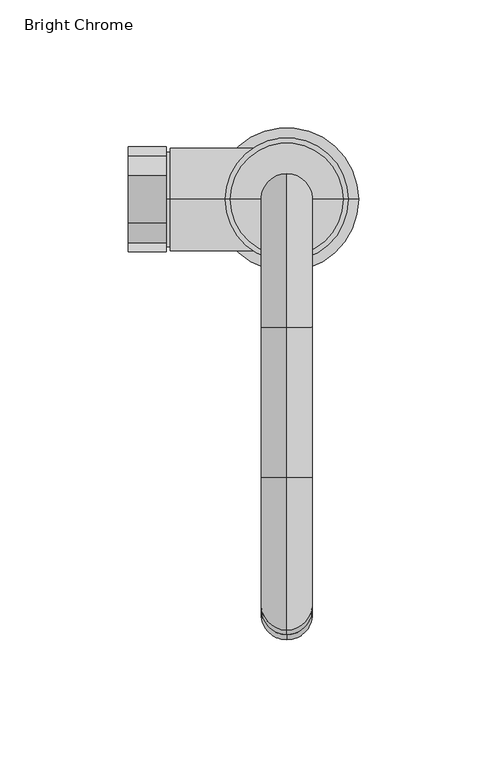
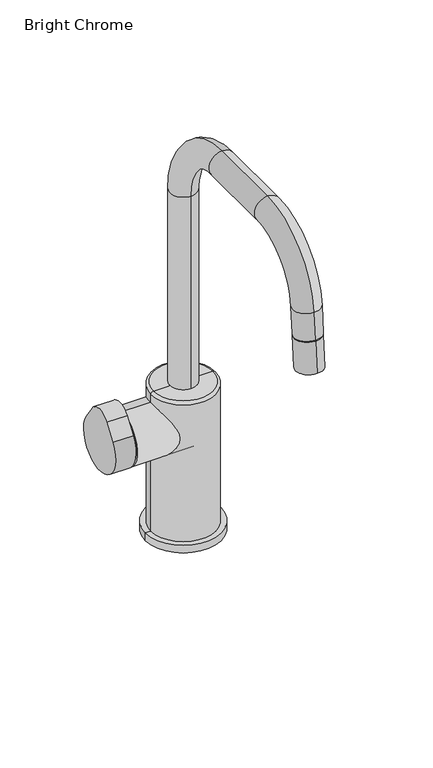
"""IFC4 building model written with IfcOpenShell, lengths in millimetres: flow terminal geometry, z_PlumFixt_Zip_Cube : Bright Chrome."""

from ifc_helpers import new_model, si_unit, point, frame, frame_2d, origin, place, context, project, spatial, polyline, circle_curve, ellipse_curve, trimmed, segment, composite_curve, outline, extrude, source, transform, mapped, element, save
from ifc_brep_helpers import plane_surface, cylinder_surface, revolved_surface, advanced_brep


def bright_chrome_cb32e6d9(model_context):
    return source(origin(), model_context, "Body", "SolidModel", [
        extrude(outline(composite_curve([segment(trimmed(circle_curve(frame_2d((10.65, 87.5)), 6.35), [point((17.0, 87.5))], [point((4.3, 87.5))], False, "CARTESIAN"), True, "CONTINUOUS"), segment(trimmed(circle_curve(frame_2d((10.65, 87.5)), 6.35), [point((4.3, 87.5))], [point((17.0, 87.5))], False, "CARTESIAN"), True, "CONTINUOUS")], self_intersect=False)), frame((0.0, 0.0, -1.0), z_axis=(0.0, 0.0, 1.0), x_axis=(1.0, 0.0, 0.0)), (0.0, 0.0, 1.0), 1.0),
        extrude(outline(composite_curve([segment(trimmed(circle_curve(frame_2d((25.35, 87.5)), 6.35), [point((31.7, 87.5))], [point((19.0, 87.5))], False, "CARTESIAN"), True, "CONTINUOUS"), segment(trimmed(circle_curve(frame_2d((25.35, 87.5)), 6.35), [point((19.0, 87.5))], [point((31.7, 87.5))], False, "CARTESIAN"), True, "CONTINUOUS")], self_intersect=False)), frame((0.0, 0.0, -1.0), z_axis=(0.0, 0.0, 1.0), x_axis=(1.0, 0.0, 0.0)), (0.0, 0.0, 1.0), 1.0),
        advanced_brep(
        [(18.0, 87.5, 0.0), (46.0, 87.5, 0.0), (-10.0, 87.5, 0.0), (-4.0, 87.5, 115.0), (40.0, 87.5, 115.0), (18.0, 87.5, 115.0), (-6.0, 87.5, 6.0), (42.0, 87.5, 6.0), (42.0, 87.5, 113.0), (-6.0, 87.5, 113.0), (-10.0, 87.5, 6.0), (46.0, 87.5, 6.0)],
        [
            (0, 1),
            (1, 2, circle_curve(frame((18.0, 87.5, 0.0), z_axis=(0.0, 0.0, -1.0), x_axis=(1.0, 0.0, 0.0)), 28.0)),
            (2, 0),
            (2, 1, circle_curve(frame((18.0, 87.5, 0.0), z_axis=(0.0, 0.0, -1.0), x_axis=(1.0, 0.0, 0.0)), 28.0)),
            (3, 4, circle_curve(frame((18.0, 87.5, 115.0), z_axis=(0.0, 0.0, 1.0), x_axis=(1.0, 0.0, 0.0)), 22.0)),
            (4, 5),
            (5, 3),
            (4, 3, circle_curve(frame((18.0, 87.5, 115.0), z_axis=(0.0, 0.0, 1.0), x_axis=(1.0, 0.0, 0.0)), 22.0)),
            (6, 7, circle_curve(frame((18.0, 87.5, 6.0), z_axis=(0.0, 0.0, 1.0), x_axis=(1.0, 0.0, 0.0)), 24.0)),
            (7, 8),
            (8, 9, circle_curve(frame((18.0, 87.5, 113.0), z_axis=(0.0, 0.0, -1.0), x_axis=(1.0, 0.0, 0.0)), 24.0)),
            (9, 6),
            (7, 6, circle_curve(frame((18.0, 87.5, 6.0), z_axis=(0.0, 0.0, 1.0), x_axis=(1.0, 0.0, 0.0)), 24.0)),
            (9, 8, circle_curve(frame((18.0, 87.5, 113.0), z_axis=(0.0, 0.0, -1.0), x_axis=(1.0, 0.0, 0.0)), 24.0)),
            (10, 11, circle_curve(frame((18.0, 87.5, 6.0), z_axis=(0.0, 0.0, 1.0), x_axis=(1.0, 0.0, 0.0)), 28.0)),
            (11, 7),
            (6, 10),
            (11, 10, circle_curve(frame((18.0, 87.5, 6.0), z_axis=(0.0, 0.0, 1.0), x_axis=(1.0, 0.0, 0.0)), 28.0)),
            (1, 11),
            (10, 2),
            (8, 4, circle_curve(frame((40.0, 87.5, 113.0), z_axis=(0.0, -1.0, 0.0), x_axis=(-1.0, 0.0, 0.0)), 2.0)),
            (3, 9, circle_curve(frame((-4.0, 87.5, 113.0), z_axis=(0.0, -1.0, 0.0), x_axis=(1.0, 0.0, 0.0)), 2.0)),
        ],
        [
            plane_surface(frame((18.0, 87.5, 0.0), z_axis=(0.0, 0.0, -1.0), x_axis=(1.0, 0.0, 0.0))),
            plane_surface(frame((18.0, 87.5, 115.0), z_axis=(0.0, 0.0, 1.0), x_axis=(1.0, 0.0, 0.0))),
            cylinder_surface(frame((18.0, 87.5, 115.0), z_axis=(0.0, 0.0, -1.0), x_axis=(1.0, 0.0, 0.0)), 24.0),
            plane_surface(frame((18.0, 87.5, 6.0), z_axis=(0.0, 0.0, 1.0), x_axis=(1.0, 0.0, 0.0))),
            cylinder_surface(frame((18.0, 87.5, 115.0), z_axis=(0.0, 0.0, -1.0), x_axis=(1.0, 0.0, 0.0)), 28.0),
            revolved_surface(trimmed(ellipse_curve(frame((40.0, 87.5, 113.0), z_axis=(0.0, 1.0, 0.0), x_axis=(-1.0, 0.0, 0.0)), 2.0, 2.0), [point((40.0, 87.5, 115.0))], [point((42.0, 87.5, 113.0))], True, "CARTESIAN"), (18.0, 87.5, 115.0), (0.0, 0.0, -1.0)),
        ],
        [
            (0, [[1, 2, 3]]),
            (0, [[-3, 4, -1]]),
            (1, [[5, 6, 7]]),
            (1, [[8, -7, -6]]),
            (2, [[9, 10, 11, 12]]),
            (2, [[13, -12, 14, -10]]),
            (3, [[15, 16, -9, 17]]),
            (3, [[18, -17, -13, -16]]),
            (4, [[-2, 19, -15, 20]]),
            (4, [[-4, -20, -18, -19]]),
            (5, [[-11, 21, -5, 22]]),
            (5, [[-14, -22, -8, -21]]),
        ],
    ),
        advanced_brep(
        [(18.0, -79.6702782, 223.2038583), (18.0, -69.7110477, 222.3780963), (18.0, -74.6906629, 222.7909773), (18.0, -79.5203848, 225.0116708), (18.0, -69.5611543, 224.1859088), (18.0, -84.5, 225.4245518), (18.0, -64.581539, 223.7730278), (18.0, -82.5082168, 249.4467619), (18.0, -62.5897558, 247.7952379), (18.0, -81.5116366, 249.3641312), (18.0, -63.5863361, 247.8778686), (18.0, -81.3606074, 251.1856412), (18.0, -63.435307, 249.6993786), (18.0, -72.3979572, 250.4425099)],
        [
            (0, 1, circle_curve(frame((18.0, -74.6906629, 222.7909773), z_axis=(0.0, -0.08263068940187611, -0.9965802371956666), x_axis=(0.0, 0.9965802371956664, -0.0826306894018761)), 4.9967028)),
            (1, 2),
            (2, 0),
            (1, 0, circle_curve(frame((18.0, -74.6906629, 222.7909773), z_axis=(0.0, -0.08263068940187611, -0.9965802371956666), x_axis=(0.0, 0.9965802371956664, -0.0826306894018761)), 4.9967028)),
            (3, 4, circle_curve(frame((18.0, -74.5407695, 224.5987898), z_axis=(0.0, -0.08263068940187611, -0.9965802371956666), x_axis=(0.0, 0.9965802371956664, -0.0826306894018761)), 4.9967028)),
            (4, 1),
            (0, 3),
            (4, 3, circle_curve(frame((18.0, -74.5407695, 224.5987898), z_axis=(0.0, -0.08263068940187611, -0.9965802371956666), x_axis=(0.0, 0.9965802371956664, -0.0826306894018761)), 4.9967028)),
            (5, 6, circle_curve(frame((18.0, -74.5407695, 224.5987898), z_axis=(0.0, -0.08263068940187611, -0.9965802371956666), x_axis=(0.0, 0.9965802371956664, -0.0826306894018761)), 9.9934056)),
            (6, 4),
            (3, 5),
            (6, 5, circle_curve(frame((18.0, -74.5407695, 224.5987898), z_axis=(0.0, -0.08263068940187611, -0.9965802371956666), x_axis=(0.0, 0.9965802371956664, -0.0826306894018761)), 9.9934056)),
            (7, 8, circle_curve(frame((18.0, -72.5489863, 248.6209999), z_axis=(0.0, -0.08263068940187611, -0.9965802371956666), x_axis=(0.0, 0.9965802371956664, -0.0826306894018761)), 9.9934056)),
            (8, 6),
            (5, 7),
            (8, 7, circle_curve(frame((18.0, -72.5489863, 248.6209999), z_axis=(0.0, -0.08263068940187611, -0.9965802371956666), x_axis=(0.0, 0.9965802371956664, -0.0826306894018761)), 9.9934056)),
            (9, 10, circle_curve(frame((18.0, -72.5489863, 248.6209999), z_axis=(0.0, -0.08263068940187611, -0.9965802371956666), x_axis=(0.0, 0.9965802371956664, -0.0826306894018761)), 8.9934056)),
            (10, 8),
            (7, 9),
            (10, 9, circle_curve(frame((18.0, -72.5489863, 248.6209999), z_axis=(0.0, -0.08263068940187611, -0.9965802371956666), x_axis=(0.0, 0.9965802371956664, -0.0826306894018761)), 8.9934056)),
            (11, 12, circle_curve(frame((18.0, -72.3979572, 250.4425099), z_axis=(0.0, -0.08263068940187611, -0.9965802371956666), x_axis=(0.0, 0.9965802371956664, -0.0826306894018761)), 8.9934056)),
            (12, 10),
            (9, 11),
            (12, 11, circle_curve(frame((18.0, -72.3979572, 250.4425099), z_axis=(0.0, -0.08263068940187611, -0.9965802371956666), x_axis=(0.0, 0.9965802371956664, -0.0826306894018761)), 8.9934056)),
            (13, 12),
            (11, 13),
        ],
        [
            plane_surface(frame((18.0, -74.6906629, 222.7909773), z_axis=(0.0, -0.08263068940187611, -0.9965802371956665), x_axis=(0.0, 0.9965802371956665, -0.08263068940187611))),
            cylinder_surface(frame((18.0, -72.3979572, 250.4425099), z_axis=(0.0, 0.0826306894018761, 0.9965802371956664), x_axis=(0.0, 0.9965802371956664, -0.0826306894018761)), 4.9967028),
            plane_surface(frame((18.0, -74.5407695, 224.5987898), z_axis=(0.0, -0.08263068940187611, -0.9965802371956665), x_axis=(0.0, 0.9965802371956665, -0.08263068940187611))),
            cylinder_surface(frame((18.0, -72.3979572, 250.4425099), z_axis=(0.0, 0.0826306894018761, 0.9965802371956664), x_axis=(0.0, 0.9965802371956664, -0.0826306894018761)), 9.9934056),
            plane_surface(frame((18.0, -72.5489863, 248.6209999), z_axis=(0.0, 0.08263068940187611, 0.9965802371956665), x_axis=(0.0, 0.9965802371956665, -0.08263068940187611))),
            cylinder_surface(frame((18.0, -72.3979572, 250.4425099), z_axis=(0.0, 0.0826306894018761, 0.9965802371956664), x_axis=(0.0, 0.9965802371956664, -0.0826306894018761)), 8.9934056),
            plane_surface(frame((18.0, -72.3979572, 250.4425099), z_axis=(0.0, 0.08263068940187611, 0.9965802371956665), x_axis=(0.0, 0.9965802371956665, -0.08263068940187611))),
        ],
        [
            (0, [[1, 2, 3]]),
            (0, [[4, -3, -2]]),
            (1, [[5, 6, -1, 7]]),
            (1, [[8, -7, -4, -6]]),
            (2, [[9, 10, -5, 11]]),
            (2, [[12, -11, -8, -10]]),
            (3, [[13, 14, -9, 15]]),
            (3, [[16, -15, -12, -14]]),
            (4, [[17, 18, -13, 19]]),
            (4, [[20, -19, -16, -18]]),
            (5, [[21, 22, -17, 23]]),
            (5, [[24, -23, -20, -22]]),
            (6, [[25, -21, 26]]),
            (6, [[-26, -24, -25]]),
        ],
    ),
        advanced_brep(
        [(18.0, 97.5, 115.0), (18.0, 77.5, 115.0), (18.0, 97.5, 266.0), (18.0, 77.5, 266.0), (18.0, -82.442046, 250.3246314), (18.0, -62.5104412, 248.6720176), (18.0, -60.7996544, 269.3052276), (18.0, -80.7312591, 270.9578414), (18.0, 37.5, 306.0), (18.0, 37.5, 326.0), (18.0, -20.9364449, 326.0), (18.0, -20.9364449, 306.0)],
        [
            (0, 1, circle_curve(frame((18.0, 87.5, 115.0), z_axis=(0.0, 0.0, -1.0), x_axis=(0.0, -1.0, 0.0)), 10.0)),
            (1, 0, circle_curve(frame((18.0, 87.5, 115.0), z_axis=(0.0, 0.0, -1.0), x_axis=(0.0, -1.0, 0.0)), 10.0)),
            (0, 2),
            (2, 3, circle_curve(frame((18.0, 87.5, 266.0), z_axis=(0.0, 0.0, -1.0), x_axis=(0.0, -1.0, 0.0)), 10.0)),
            (3, 1),
            (3, 2, circle_curve(frame((18.0, 87.5, 266.0), z_axis=(0.0, 0.0, -1.0), x_axis=(0.0, -1.0, 0.0)), 10.0)),
            (4, 5, circle_curve(frame((18.0, -72.4762436, 249.4983245), z_axis=(0.0, -0.08263068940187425, -0.9965802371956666), x_axis=(0.0, 0.9965802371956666, -0.08263068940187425)), 10.0)),
            (5, 4, circle_curve(frame((18.0, -72.4762436, 249.4983245), z_axis=(0.0, -0.08263068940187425, -0.9965802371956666), x_axis=(0.0, 0.9965802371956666, -0.08263068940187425)), 10.0)),
            (6, 7, circle_curve(frame((18.0, -70.7654568, 270.1315345), z_axis=(0.0, -0.08263068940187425, -0.9965802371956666), x_axis=(0.0, 0.9965802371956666, -0.08263068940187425)), 10.0)),
            (7, 4),
            (5, 6),
            (7, 6, circle_curve(frame((18.0, -70.7654568, 270.1315345), z_axis=(0.0, -0.08263068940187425, -0.9965802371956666), x_axis=(0.0, 0.9965802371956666, -0.08263068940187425)), 10.0)),
            (8, 3, circle_curve(frame((18.0, 37.5, 266.0), z_axis=(-1.0, 0.0, 0.0), x_axis=(0.0, 1.0, 0.0)), 40.0)),
            (2, 9, circle_curve(frame((18.0, 37.5, 266.0), z_axis=(1.0, 0.0, 0.0), x_axis=(0.0, 1.0, 0.0)), 60.0)),
            (9, 8, circle_curve(frame((18.0, 37.5, 316.0), z_axis=(0.0, 1.0, 0.0), x_axis=(0.0, 0.0, -1.0)), 10.0)),
            (8, 9, circle_curve(frame((18.0, 37.5, 316.0), z_axis=(0.0, 1.0, 0.0), x_axis=(0.0, 0.0, -1.0)), 10.0)),
            (9, 10),
            (10, 11, circle_curve(frame((18.0, -20.9364449, 316.0), z_axis=(0.0, 1.0, 0.0), x_axis=(0.0, 0.0, -1.0)), 10.0)),
            (11, 8),
            (11, 10, circle_curve(frame((18.0, -20.9364449, 316.0), z_axis=(0.0, 1.0, 0.0), x_axis=(0.0, 0.0, -1.0)), 10.0)),
            (6, 11, circle_curve(frame((18.0, -20.9364449, 266.0), z_axis=(-1.0, 0.0, 0.0), x_axis=(0.0, 0.0, 1.0)), 40.0)),
            (10, 7, circle_curve(frame((18.0, -20.9364449, 266.0), z_axis=(1.0, 0.0, 0.0), x_axis=(0.0, 0.0, 1.0)), 60.0)),
        ],
        [
            plane_surface(frame((18.0, 87.5, 115.0), z_axis=(0.0, 0.0, -1.0), x_axis=(1.0, 0.0, 0.0))),
            cylinder_surface(frame((18.0, 87.5, 115.0), z_axis=(0.0, 0.0, -1.0), x_axis=(0.0, -1.0, 0.0)), 10.0),
            plane_surface(frame((18.0, -72.4762436, 249.4983245), z_axis=(0.0, -0.08263068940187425, -0.9965802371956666), x_axis=(1.0, 0.0, 0.0))),
            cylinder_surface(frame((18.0, -70.7654568, 270.1315345), z_axis=(0.0, 0.08263068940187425, 0.9965802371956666), x_axis=(0.0, 0.9965802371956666, -0.08263068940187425)), 10.0),
            revolved_surface(trimmed(ellipse_curve(frame((18.0, 87.5, 266.0), z_axis=(0.0, 0.0, -1.0), x_axis=(0.0, -1.0, 0.0)), 10.0, 10.0), [point((18.0, 97.5, 266.0))], [point((18.0, 77.5, 266.0))], True, "CARTESIAN"), (18.0, 37.5, 266.0), (1.0, 0.0, 0.0)),
            revolved_surface(trimmed(ellipse_curve(frame((18.0, 87.5, 266.0), z_axis=(0.0, 0.0, -1.0), x_axis=(0.0, -1.0, 0.0)), 10.0, 10.0), [point((18.0, 77.5, 266.0))], [point((18.0, 97.5, 266.0))], True, "CARTESIAN"), (18.0, 37.5, 266.0), (1.0, 0.0, 0.0)),
            cylinder_surface(frame((18.0, 37.5, 316.0), z_axis=(0.0, 1.0, 0.0), x_axis=(0.0, 0.0, -1.0)), 10.0),
            revolved_surface(trimmed(ellipse_curve(frame((18.0, -20.9364449, 316.0), z_axis=(0.0, 1.0, 0.0), x_axis=(0.0, 0.0, -1.0)), 10.0, 10.0), [point((18.0, -20.9364449, 326.0))], [point((18.0, -20.9364449, 306.0))], True, "CARTESIAN"), (18.0, -20.9364449, 266.0), (1.0, 0.0, 0.0)),
            revolved_surface(trimmed(ellipse_curve(frame((18.0, -20.9364449, 316.0), z_axis=(0.0, 1.0, 0.0), x_axis=(0.0, 0.0, -1.0)), 10.0, 10.0), [point((18.0, -20.9364449, 306.0))], [point((18.0, -20.9364449, 326.0))], True, "CARTESIAN"), (18.0, -20.9364449, 266.0), (1.0, 0.0, 0.0)),
        ],
        [
            (0, [[1, 2]]),
            (1, [[-1, 3, 4, 5]]),
            (1, [[-2, -5, 6, -3]]),
            (2, [[7, 8]]),
            (3, [[9, 10, -8, 11]]),
            (3, [[12, -11, -7, -10]]),
            (4, [[13, -4, 14, 15]]),
            (5, [[-14, -6, -13, 16]]),
            (6, [[-15, 17, 18, 19]]),
            (6, [[-16, -19, 20, -17]]),
            (7, [[21, -18, 22, -9]]),
            (8, [[-22, -20, -21, -12]]),
        ],
    ),
        advanced_brep(
        [(-29.0, 87.5, 68.3400719), (-29.0, 87.5, 105.4300145), (-29.0, 87.5, 86.8850432), (-27.497976, 87.5, 68.3400719), (-27.497976, 87.5, 105.4300145), (-27.497976, 87.5, 66.8850432), (-27.497976, 87.5, 106.8850432), (18.0, 87.5, 66.8850432), (18.0, 87.5, 106.8850432), (18.0, 87.5, 86.8850432)],
        [
            (0, 1, circle_curve(frame((-29.0, 87.5, 86.8850432), z_axis=(-1.0, 0.0, 0.0), x_axis=(0.0, 0.0, 1.0)), 18.5449713)),
            (1, 2),
            (2, 0),
            (1, 0, circle_curve(frame((-29.0, 87.5, 86.8850432), z_axis=(-1.0, 0.0, 0.0), x_axis=(0.0, 0.0, 1.0)), 18.5449713)),
            (3, 4, circle_curve(frame((-27.497976, 87.5, 86.8850432), z_axis=(-1.0, 0.0, 0.0), x_axis=(0.0, 0.0, 1.0)), 18.5449713)),
            (4, 1),
            (0, 3),
            (4, 3, circle_curve(frame((-27.497976, 87.5, 86.8850432), z_axis=(-1.0, 0.0, 0.0), x_axis=(0.0, 0.0, 1.0)), 18.5449713)),
            (5, 6, circle_curve(frame((-27.497976, 87.5, 86.8850432), z_axis=(-1.0, 0.0, 0.0), x_axis=(0.0, 0.0, 1.0)), 20.0)),
            (6, 4),
            (3, 5),
            (6, 5, circle_curve(frame((-27.497976, 87.5, 86.8850432), z_axis=(-1.0, 0.0, 0.0), x_axis=(0.0, 0.0, 1.0)), 20.0)),
            (7, 8, circle_curve(frame((18.0, 87.5, 86.8850432), z_axis=(-1.0, 0.0, 0.0), x_axis=(0.0, 0.0, 1.0)), 20.0)),
            (8, 6),
            (5, 7),
            (8, 7, circle_curve(frame((18.0, 87.5, 86.8850432), z_axis=(-1.0, 0.0, 0.0), x_axis=(0.0, 0.0, 1.0)), 20.0)),
            (9, 8),
            (7, 9),
        ],
        [
            plane_surface(frame((-29.0, 87.5, 86.8850432), z_axis=(-1.0, 0.0, 0.0), x_axis=(0.0, 0.0, 1.0))),
            cylinder_surface(frame((18.0, 87.5, 86.8850432), z_axis=(1.0, 0.0, 0.0), x_axis=(0.0, 0.0, 1.0)), 18.5449713),
            plane_surface(frame((-27.497976, 87.5, 86.8850432), z_axis=(-1.0, 0.0, 0.0), x_axis=(0.0, 0.0, 1.0))),
            cylinder_surface(frame((18.0, 87.5, 86.8850432), z_axis=(1.0, 0.0, 0.0), x_axis=(0.0, 0.0, 1.0)), 20.0),
            plane_surface(frame((18.0, 87.5, 86.8850432), z_axis=(1.0, 0.0, 0.0), x_axis=(0.0, 0.0, 1.0))),
        ],
        [
            (0, [[1, 2, 3]]),
            (0, [[4, -3, -2]]),
            (1, [[5, 6, -1, 7]]),
            (1, [[8, -7, -4, -6]]),
            (2, [[9, 10, -5, 11]]),
            (2, [[12, -11, -8, -10]]),
            (3, [[13, 14, -9, 15]]),
            (3, [[16, -15, -12, -14]]),
            (4, [[17, -13, 18]]),
            (4, [[-18, -16, -17]]),
        ],
    ),
        extrude(outline(composite_curve([segment(polyline([(70.594225, 98.9800754), (78.2342203, 110.1193323)]), True, "CONTINUOUS"), segment(trimmed(circle_curve(frame_2d((87.5, 103.7642842)), 11.2357158), [point((78.2342203, 110.1193323))], [point((96.7657797, 110.1193323))], False, "CARTESIAN"), True, "CONTINUOUS"), segment(polyline([(96.7657797, 110.1193323), (104.405775, 98.9800754)]), True, "CONTINUOUS"), segment(trimmed(circle_curve(frame_2d((87.5, 87.3850432)), 20.5), [point((104.405775, 98.9800754))], [point((70.594225, 98.9800754))], False, "CARTESIAN"), True, "CONTINUOUS")], self_intersect=False)), frame((-44.0, 0.0, 0.0), z_axis=(1.0, 0.0, 0.0), x_axis=(0.0, 1.0, 0.0)), (0.0, 0.0, 1.0), 15.0),
    ])


if __name__ == "__main__":
    model = new_model("IFC4")
    model_context = context("Model", 3, world=origin())
    ifc_project = project(units=[si_unit("LENGTHUNIT", "METRE", prefix="MILLI")], contexts=[model_context])
    site = spatial("IfcSite", under=ifc_project)
    building = spatial("IfcBuilding", under=site)
    placement = place(None, origin())
    bright_chrome_shape = bright_chrome_cb32e6d9(model_context)
    element("IfcFlowTerminal", 1, ObjectType="z_PlumFixt_Zip_Cube : Bright Chrome", at=placement, inside=building, context=model_context, shape_type="MappedRepresentation", body=[
        mapped(bright_chrome_shape, transform((0.0, 0.0, 0.0), x_axis=(1.0, 0.0, 0.0), y_axis=(0.0, 1.0, 0.0), z_axis=(0.0, 0.0, 1.0))),
    ])
    save(model, "model.ifc")
